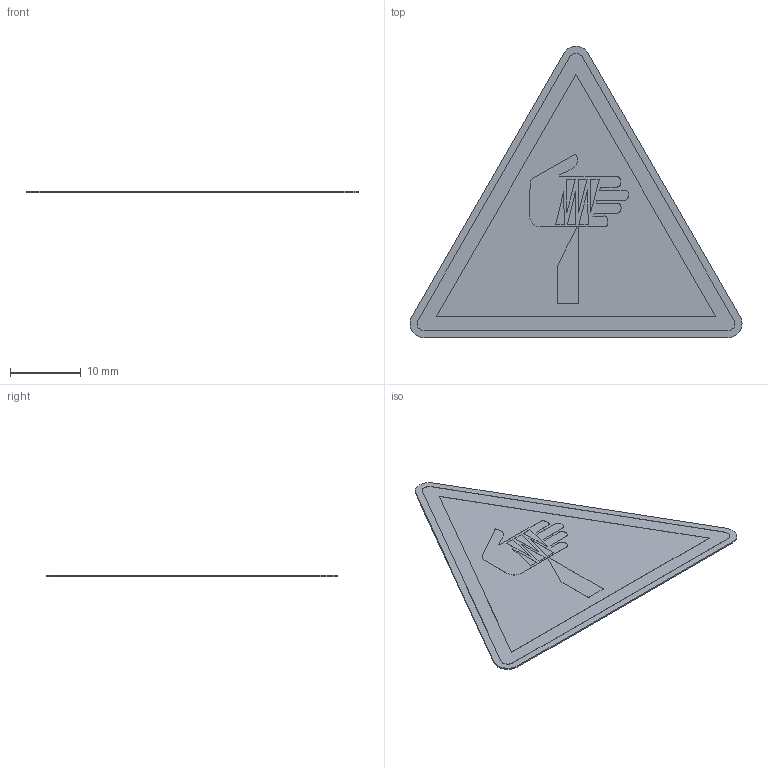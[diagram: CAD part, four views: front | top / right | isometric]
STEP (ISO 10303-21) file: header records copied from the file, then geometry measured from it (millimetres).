
FILE_DESCRIPTION (( 'STEP AP214' ), '1' );
FILE_NAME ('W022_Warnung vor spitzem Gegenstand.STEP', '2022-02-22T08:19:47', ( '' ), ( '' ), 'SwSTEP 2.0', 'SolidWorks 2021', '' );
FILE_SCHEMA (( 'AUTOMOTIVE_DESIGN' ));
Length unit declared in the file: millimetre
Products named in the file (1): W022_Warnung vor spitzem Gegenstand
Bounding box: 47.07 x 41.3 x 0.22 mm (x, y, z)
Volume: 221 mm3; surface area: 2183.6 mm2
Topology: 1 solids, 1 shells, 81 faces, 210 edges, 140 vertices
Faces by surface type: plane 61, cylinder 19, bspline 1
Entity records: 3229 total; most frequent: CARTESIAN_POINT 457, ORIENTED_EDGE 420, DIRECTION 408, EDGE_CURVE 210, VECTOR 170, LINE 170, VERTEX_POINT 140, AXIS2_PLACEMENT_3D 119
